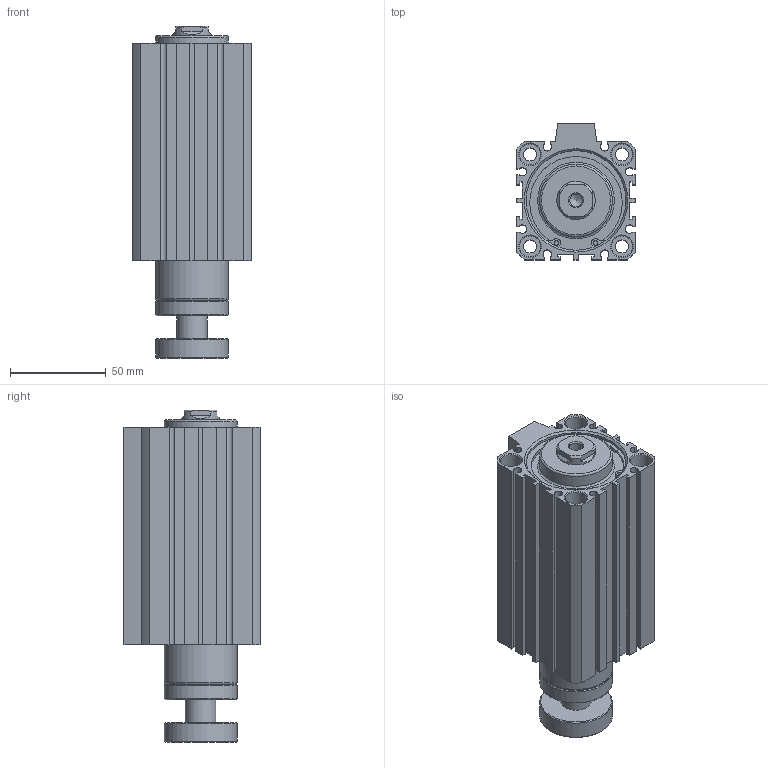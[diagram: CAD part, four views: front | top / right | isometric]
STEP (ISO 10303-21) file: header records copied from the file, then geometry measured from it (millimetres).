
FILE_DESCRIPTION((''),'2;1');
FILE_NAME('I:\3D電子目錄\氣缸\JDAR\JDAR\JDAR50\JDAR50x85.stp','2007-03-14T11:00:44',('662F206'),(''),'Autodesk Inventor 11','Autodesk Inventor 11','');
FILE_SCHEMA(('AUTOMOTIVE_DESIGN { 1 0 10303 214 1 1 1 1 }'));
Length unit declared in the file: millimetre
Products named in the file (3): JDAR50; R 形環 52
Assembly tree (3 placements, depth 2):
  JDAR50
    JDAR50
    R 形環 52  x2
Bounding box: 62 x 71 x 173.3 mm (x, y, z)
Volume: 441871.3 mm3; surface area: 77705.7 mm2
Topology: 3 solids, 3 shells, 193 faces, 472 edges, 309 vertices
Faces by surface type: plane 110, cylinder 54, cone 23, bspline 4, torus 2
Full cylindrical faces by diameter (mm): 2.3 x4, 2.7 x2, 6.8 x4, 11 x8, 16 x1, 20 x1, 38 x4, 52 x4, 55 x2
Entity records: 5195 total; most frequent: CARTESIAN_POINT 989, DIRECTION 870, ORIENTED_EDGE 764, EDGE_CURVE 382, AXIS2_PLACEMENT_3D 313, VERTEX_POINT 282, EDGE_LOOP 270, VECTOR 244
